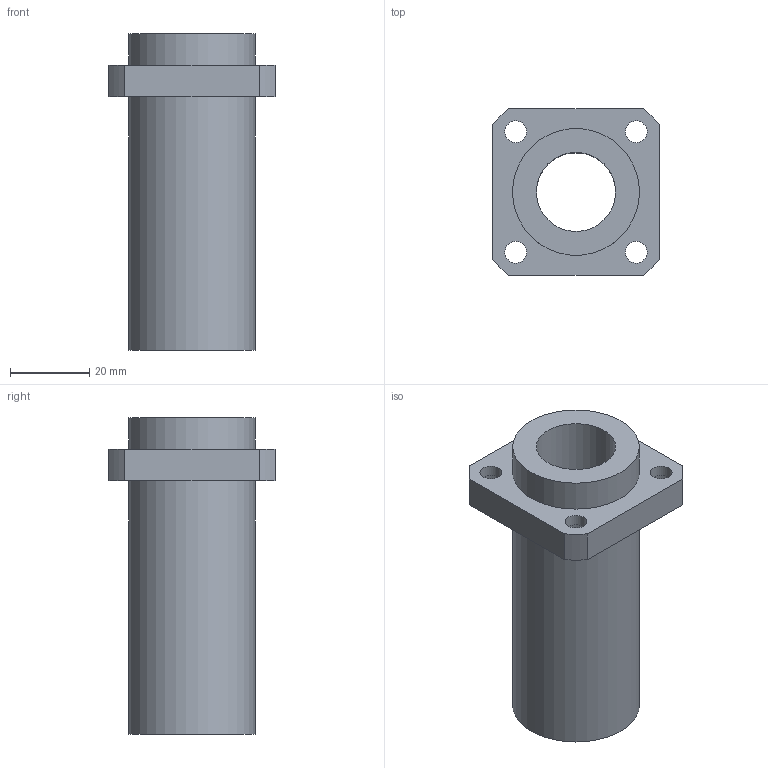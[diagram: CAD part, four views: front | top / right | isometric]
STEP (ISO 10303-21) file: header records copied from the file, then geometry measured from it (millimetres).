
FILE_DESCRIPTION(/* description */ (''),/* implementation_level */ '2;1');
FILE_NAME(/* name */ 'LMKP20LUU',/* time_stamp */ '2019-07-10T14:02:29+02:00',/* author */ ('VĂ©gh MĂˇtĂ©'),/* organization */ ('Bearing Kft'),/* preprocessor_version */ 'ST-DEVELOPER v16.7',/* originating_system */ 'DEX',/* authorisation */ $);
FILE_SCHEMA (('AUTOMOTIVE_DESIGN {1 0 10303 214 3 1 1}'));
Length unit declared in the file: millimetre
Products named in the file (1): LMKP20LUU
Bounding box: 42 x 42 x 80 mm (x, y, z)
Volume: 45069.1 mm3; surface area: 16974 mm2
Topology: 1 solids, 1 shells, 343 faces, 862 edges, 576 vertices
Faces by surface type: plane 263, bspline 63, cylinder 17
Full cylindrical faces by diameter (mm): 5.5 x4, 9 x4, 20 x1, 32 x2
Entity records: 12892 total; most frequent: CARTESIAN_POINT 5067, ORIENTED_EDGE 1688, DIRECTION 1314, EDGE_CURVE 844, LINE 684, VECTOR 684, VERTEX_POINT 572, EDGE_LOOP 422
